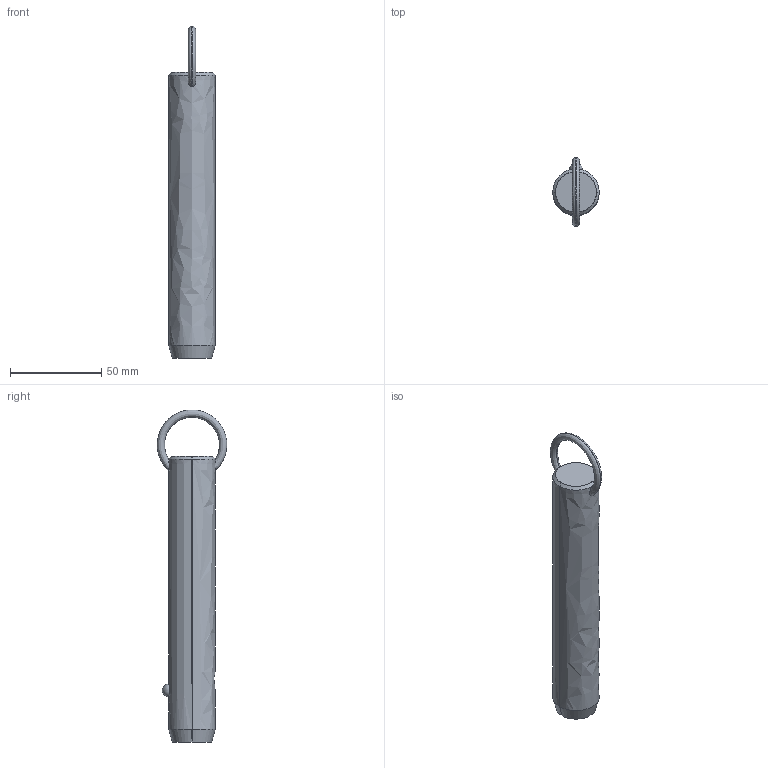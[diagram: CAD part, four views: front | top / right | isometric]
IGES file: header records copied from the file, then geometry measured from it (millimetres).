
Start section: SolidWorks IGES file using analytic representation for surfaces
Global section: file name: C:\Users\liam_\OneDrive\Documents\WORK\Work for WixRoyd\Job Files\J-00019 - Matt Davis CAD Checking\04. CAD Drawings\automotion20190605\P1250.2_v2\P1250.2_v2_20190729_IGES\P1250.100-440.igs; native system: SolidWorks 2017; preprocessor: SolidWorks 2017; author: liam_; date: 190730.173959; units: millimetre
Bounding box: 25.4 x 38.08 x 181.58 mm (x, y, z)
Surface area: 14237.5 mm2 (no closed solid volume)
Topology: 0 solids, 0 shells, 12 faces, 298 edges, 296 vertices
Faces by surface type: revolution 8, bspline 4
